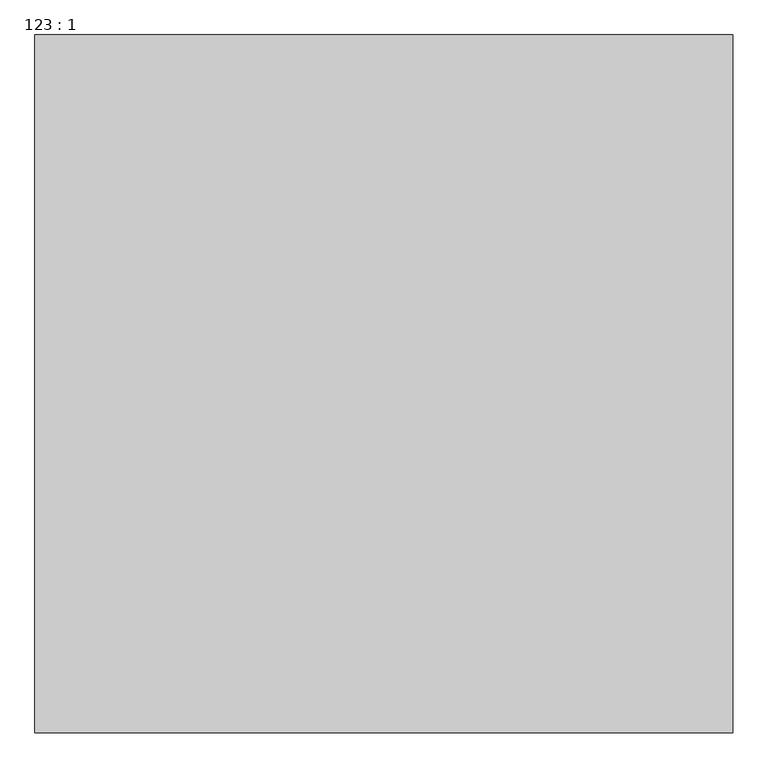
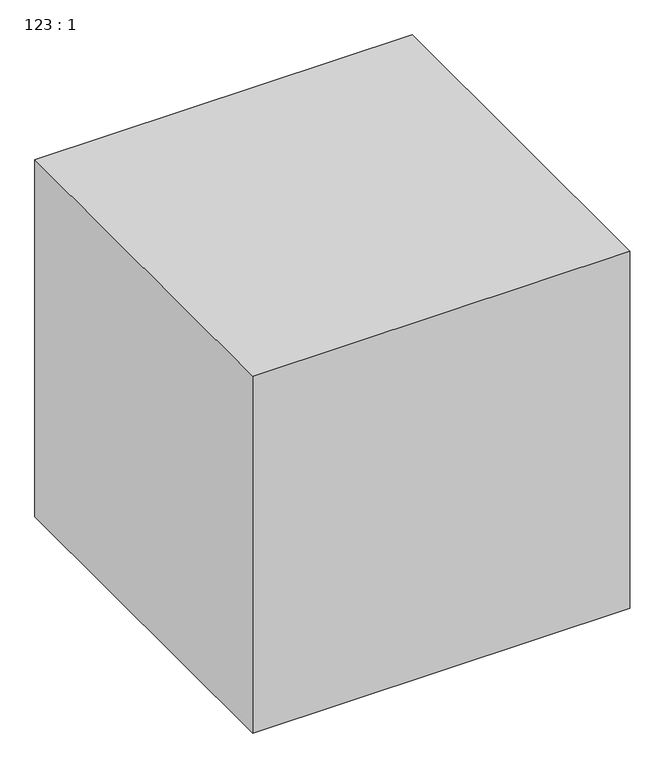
"""IFC4 building model written with IfcOpenShell, lengths in millimetres: proxy geometry, 123 : 1."""

from ifc_helpers import new_model, si_unit, origin, origin_with_axes, place, context, project, spatial, polyline, outline, extrude, source, transform, mapped, element, save


def proxy_123_1_c0a6e036(model_context):
    return source(origin(), model_context, "Body", "SweptSolid", [
        extrude(outline(polyline([(-26307.9756708, 7335.2294472), (-26307.9756708, 6335.2294472), (-27307.9756708, 6335.2294472), (-27307.9756708, 7335.2294472), (-26307.9756708, 7335.2294472)])), origin_with_axes(), (0.0, 0.0, 1.0), 1000.0),
    ])


if __name__ == "__main__":
    model = new_model("IFC4")
    model_context = context("Model", 3, world=origin())
    ifc_project = project(units=[si_unit("LENGTHUNIT", "METRE", prefix="MILLI")], contexts=[model_context])
    site = spatial("IfcSite", under=ifc_project)
    building = spatial("IfcBuilding", under=site)
    placement = place(None, origin())
    proxy_123_1_shape = proxy_123_1_c0a6e036(model_context)
    element("IfcBuildingElementProxy", 1, Name="123 : 1", ObjectType="123 : 1", at=placement, inside=building, context=model_context, shape_type="MappedRepresentation", body=[
        mapped(proxy_123_1_shape, transform((0.0, 0.0, 0.0), x_axis=(1.0, 0.0, 0.0), y_axis=(0.0, 1.0, 0.0), z_axis=(0.0, 0.0, 1.0))),
    ])
    save(model, "model.ifc")
